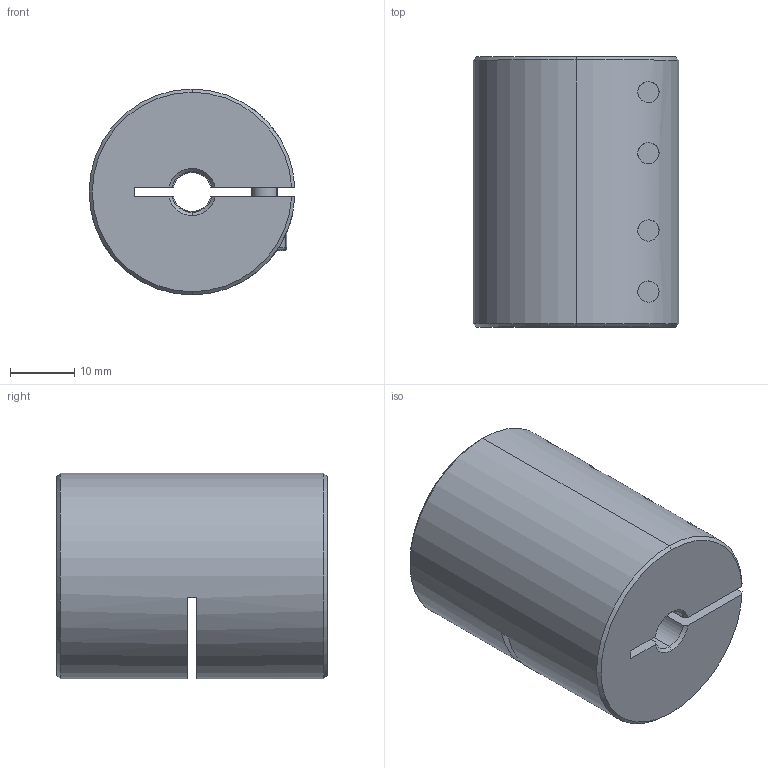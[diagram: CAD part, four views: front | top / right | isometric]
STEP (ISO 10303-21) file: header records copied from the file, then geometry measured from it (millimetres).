
FILE_DESCRIPTION (( 'STEP AP203' ), '1' );
FILE_NAME ('LL-B-D32L42-6-6.35.STEP', '2021-11-05T07:33:48', ( '' ), ( '' ), 'SwSTEP 2.0', 'SolidWorks 2018', '' );
FILE_SCHEMA (( 'CONFIG_CONTROL_DESIGN' ));
Length unit declared in the file: millimetre
Products named in the file (1): LL-B-D32L42-6-6.35
Bounding box: 31.98 x 42 x 32 mm (x, y, z)
Volume: 29912.6 mm3; surface area: 10262.2 mm2
Topology: 1 solids, 1 shells, 193 faces, 492 edges, 309 vertices
Faces by surface type: plane 88, cylinder 77, cone 20, torus 8
Entity records: 6376 total; most frequent: CARTESIAN_POINT 1559, DIRECTION 1037, ORIENTED_EDGE 968, EDGE_CURVE 484, AXIS2_PLACEMENT_3D 403, VERTEX_POINT 309, LINE 231, VECTOR 231
